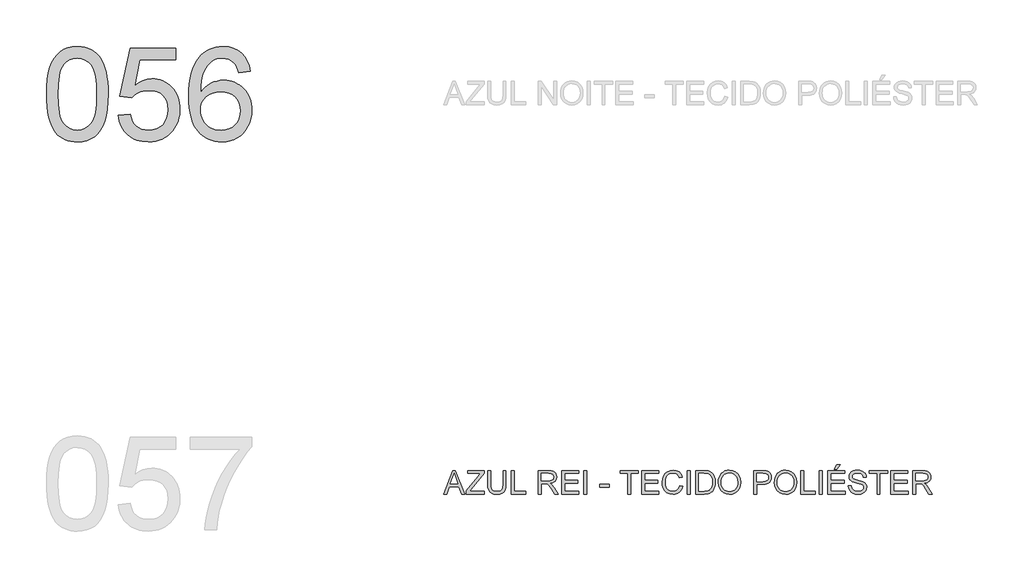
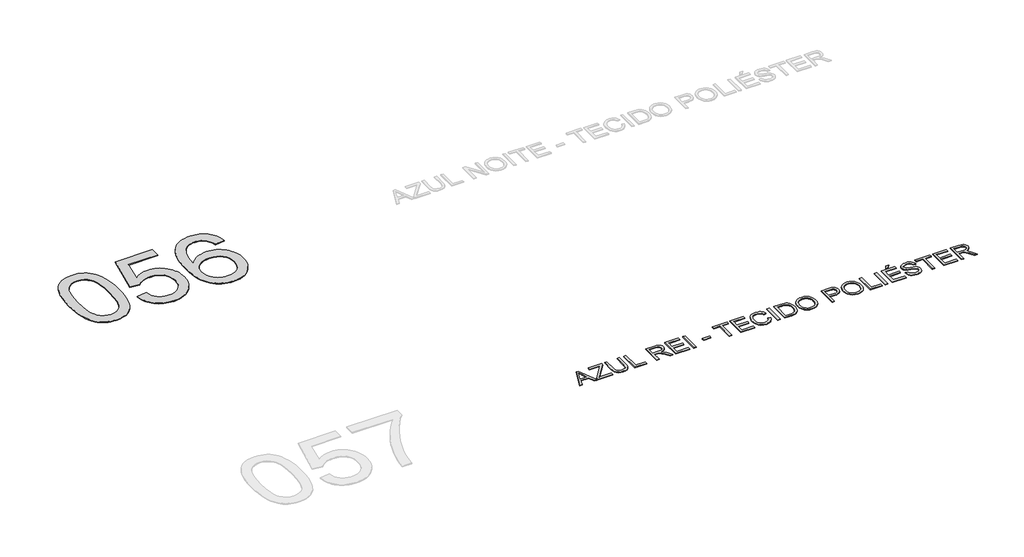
# One storey, part 19 of 35: 2 proxies.
"""IFC4 building model written with IfcOpenShell, lengths in millimetres."""

from ifc_helpers import new_model, si_unit, origin, origin_with_axes, place, context, project, spatial, polyline, outline, extrude, element, save

model = new_model("IFC4")

# Units and contexts
model_context = context("Model", 3, world=origin())
ifc_project = project(units=[si_unit("LENGTHUNIT", "METRE", prefix="MILLI")], contexts=[model_context])

# Site, building, storey
site = spatial("IfcSite", under=ifc_project)
building = spatial("IfcBuilding", under=site)
storey = spatial("IfcBuildingStorey", under=building, Name="Marelli - Linha YOU - Planta Baixa", Elevation=0.0)

# Proxies
placement = place(None, origin())
element("IfcBuildingElementProxy", 1, Name="1200mm Arial", ObjectType="1200mm Arial", at=placement, inside=storey, context=model_context, shape_type="SweptSolid", body=[
    extrude(outline(polyline([(-25134.0424838, -44895.792664), (-25131.2741718, -44794.4319773), (-25122.9692358, -44702.8385576), (-25109.1276757, -44621.0124048), (-25089.7494916, -44548.953519), (-25064.9174569, -44486.073289), (-25034.7143451, -44431.7831035), (-24999.1401562, -44386.0829627), (-24958.1948901, -44348.9728664), (-24911.7405912, -44320.2596767), (-24859.6393036, -44299.7502555), (-24801.8910274, -44287.4446027), (-24738.4957626, -44283.3427185), (-24690.8550442, -44285.7707396), (-24645.642347, -44293.0548031), (-24602.857671, -44305.194909), (-24562.5010161, -44322.1910572), (-24525.5472697, -44343.7581391), (-24492.971319, -44369.6110463), (-24464.7731641, -44399.7497788), (-24440.9528049, -44434.1743365), (-24420.314625, -44472.7467637), (-24401.6630078, -44515.3291046), (-24370.3194618, -44612.5235278), (-24358.3449029, -44669.6831928), (-24349.7916465, -44735.9479371), (-24344.6596927, -44811.3177609), (-24342.9490414, -44895.792664), (-24345.6897623, -44996.5095573), (-24353.9119248, -45087.6431245), (-24367.6155292, -45169.1933658), (-24386.8005752, -45241.1602811), (-24411.4394718, -45304.0681023), (-24441.5046279, -45358.4410612), (-24476.9960434, -45404.2791578), (-24517.9137183, -45441.5823921), (-24564.4231995, -45470.4887199), (-24616.690034, -45491.1360968), (-24674.7142217, -45503.524523), (-24738.4957626, -45507.6539984), (-24781.170074, -45505.8605737), (-24821.4899407, -45500.4802995), (-24859.4553626, -45491.5131759), (-24895.0663398, -45478.9592028), (-24928.3228721, -45462.8183803), (-24959.2249597, -45443.0907083), (-24987.7726025, -45419.7761868), (-25013.9658006, -45392.8748159), (-25042.1087732, -45350.2786794), (-25066.4993495, -45302.0999336), (-25087.1375294, -45248.3385785), (-25104.023313, -45188.9946142), (-25117.1567002, -45124.0680406), (-25126.5376911, -45053.5588577), (-25132.1662856, -44977.4670655), (-25134.0424838, -44895.792664)]), holes=[polyline([(-24983.3580186, -44895.4983584), (-24978.9434347, -45026.4919399), (-24965.6996828, -45132.5247279), (-24955.766869, -45176.1808245), (-24943.6267631, -45213.5967226), (-24929.2793653, -45244.7724225), (-24912.7246755, -45269.7079239), (-24875.3478648, -45307.884878), (-24833.8507758, -45335.1541309), (-24788.2334084, -45351.5156826), (-24738.4957626, -45356.9695332), (-24688.7581169, -45351.4972885), (-24643.1407495, -45335.0805545), (-24601.6436604, -45307.7193311), (-24564.2668497, -45269.4136183), (-24547.7121599, -45244.418336), (-24533.3647621, -45213.2104465), (-24521.2246563, -45175.7899498), (-24511.2918424, -45132.1568459), (-24498.0480906, -45026.2528166), (-24493.6335066, -44895.4983584), (-24497.9009378, -44767.9720648), (-24510.7032312, -44663.8062779), (-24520.3049513, -44620.4835744), (-24532.0403869, -44583.0009976), (-24545.9095381, -44551.3585475), (-24561.9124049, -44525.5562241), (-24598.6638162, -44485.5122689), (-24640.6391519, -44456.9094438), (-24687.8384119, -44439.7477487), (-24740.2615962, -44434.0271837), (-24789.7417245, -44439.067167), (-24834.5865397, -44454.187117), (-24874.7960418, -44479.3870337), (-24910.3702308, -44514.666917), (-24927.4767435, -44543.2145599), (-24942.3023879, -44577.2068562), (-24954.847164, -44616.6438061), (-24965.1110716, -44661.5254095), (-24978.7962819, -44767.6225769), (-24983.3580186, -44895.4983584)])]), origin_with_axes(), (0.0, 0.0, 1.0), 10.0),
    extrude(outline(polyline([(-24211.1001343, -45168.6139517), (-24060.4156691, -45149.7783935), (-24049.15848, -45198.2192552), (-24032.7509431, -45240.2405761), (-24011.1930581, -45275.8423562), (-23984.4848253, -45305.0245955), (-23952.6814268, -45327.7505057), (-23915.838045, -45343.9832988), (-23873.9546798, -45353.7229746), (-23827.0313314, -45356.9695332), (-23769.6417401, -45352.4537817), (-23719.0211776, -45338.9065272), (-23675.1696437, -45316.3277698), (-23638.0871386, -45284.7175093), (-23608.6013967, -45245.6392444), (-23587.5401525, -45200.6564734), (-23574.903406, -45149.7691965), (-23570.6911571, -45092.9774135), (-23574.6366915, -45039.3034304), (-23586.4732947, -44991.5891356), (-23606.2009667, -44949.8345291), (-23633.8197075, -44914.039611), (-23669.4214876, -44885.3264213), (-23713.0982775, -44864.817), (-23764.8500771, -44852.5113473), (-23824.6768866, -44848.4094631), (-23862.9642052, -44850.0465379), (-23897.775039, -44854.9577626), (-23929.109388, -44863.143137), (-23956.9672521, -44874.6026611), (-24004.2400884, -44904.6954083), (-24041.5801109, -44942.5872538), (-24192.2645762, -44923.7516957), (-24060.4156691, -44302.1782766), (-23476.5133664, -44302.1782766), (-23476.5133664, -44452.8627418), (-23938.5731523, -44452.8627418), (-24003.0260778, -44784.8394543), (-23949.8487354, -44746.7268796), (-23895.3838061, -44719.503612), (-23839.6312897, -44703.1696514), (-23782.5911863, -44697.7249978), (-23745.1522955, -44699.4126565), (-23709.2079254, -44704.4756324), (-23674.7580758, -44712.9139257), (-23641.8027468, -44724.7275363), (-23610.3419384, -44739.9164642), (-23580.3756506, -44758.4807093), (-23551.9038835, -44780.4202718), (-23524.9266369, -44805.7351516), (-23500.3360248, -44833.7033803), (-23479.024161, -44863.6029895), (-23460.9910454, -44895.4339791), (-23446.2366781, -44929.1963492), (-23434.7610592, -44964.8900998), (-23426.5641885, -45002.5152308), (-23421.646066, -45042.0717424), (-23420.0066919, -45083.5596344), (-23425.9111979, -45161.6241938), (-23433.2918304, -45198.6147284), (-23443.624716, -45234.2440996), (-23456.9098545, -45268.5123075), (-23473.1472461, -45301.4193519), (-23492.3368907, -45332.965233), (-23514.4787883, -45363.1499507), (-23544.479565, -45397.0180869), (-23577.0923038, -45426.3704716), (-23612.3170049, -45451.2071048), (-23650.1536681, -45471.5279865), (-23690.6022934, -45487.3331167), (-23733.662881, -45498.6224954), (-23779.3354307, -45505.3961227), (-23827.6199425, -45507.6539984), (-23905.3809993, -45501.8506599), (-23941.4403326, -45494.5964869), (-23975.6188692, -45484.4406445), (-24007.9166091, -45471.383133), (-24038.3335523, -45455.4239522), (-24066.8696989, -45436.5631021), (-24093.5250487, -45414.8005828), (-24117.8627419, -45390.6422321), (-24139.4459187, -45364.5938875), (-24158.2745791, -45336.6555493), (-24174.348723, -45306.8272173), (-24187.6683505, -45275.1088915), (-24198.2334615, -45241.500572), (-24211.1001343, -45168.6139517)])), origin_with_axes(), (0.0, 0.0, 1.0), 10.0),
    extrude(outline(polyline([(-22515.8999005, -44603.5472071), (-22666.5843658, -44622.3827652), (-22677.6576138, -44582.0812927), (-22690.8645775, -44547.7027202), (-22706.2052567, -44519.2470479), (-22723.6796514, -44496.7142757), (-22756.0716611, -44469.2886729), (-22792.0321261, -44449.6989567), (-22831.5610465, -44437.9451269), (-22874.6584222, -44434.0271837), (-22910.195823, -44436.3080521), (-22944.7031541, -44443.1506572), (-22978.1804157, -44454.554999), (-23010.6276077, -44470.5210776), (-23040.2329112, -44496.6315022), (-23067.2446467, -44528.1681863), (-23091.6628141, -44565.1311297), (-23113.4874135, -44607.5203326), (-23131.5596165, -44658.1316981), (-23144.7205949, -44719.7611293), (-23152.9703486, -44792.4086263), (-23156.3088778, -44876.0741891), (-23127.586491, -44838.2099347), (-23095.8658659, -44805.5512106), (-23061.1470026, -44778.0980167), (-23023.4299011, -44755.8503531), (-22983.7262368, -44738.6610669), (-22943.0476851, -44726.3830053), (-22901.3942462, -44719.0161683), (-22858.7659201, -44716.560556), (-22821.8673559, -44718.2390176), (-22786.3667434, -44723.2744024), (-22752.2640824, -44731.6667104), (-22719.5593731, -44743.4159416), (-22688.2526153, -44758.5220961), (-22658.3438091, -44776.9851737), (-22629.8329545, -44798.8051745), (-22602.7200514, -44823.9820986), (-22577.9569946, -44851.81697), (-22556.4956787, -44881.6108131), (-22538.3361037, -44913.3636278), (-22523.4782696, -44947.0754142), (-22511.9221765, -44982.7461721), (-22503.6678242, -45020.3759017), (-22498.7152128, -45059.9646029), (-22497.0643424, -45101.5122757), (-22500.1729453, -45156.4462547), (-22509.4987538, -45209.4120649), (-22525.0417681, -45260.4097065), (-22546.8019881, -45309.4391794), (-22574.0068617, -45354.6702707), (-22605.8838366, -45394.2727675), (-22642.4329128, -45428.2466698), (-22683.6540903, -45456.5919775), (-22728.6644525, -45478.9316116), (-22776.5810823, -45494.8884932), (-22827.40398, -45504.4626221), (-22881.1331454, -45507.6539984), (-22927.1344896, -45505.5386769), (-22970.9607315, -45499.1927125), (-23012.6118712, -45488.6161052), (-23052.0879085, -45473.8088549), (-23089.3888436, -45454.7709616), (-23124.5146763, -45431.5024254), (-23157.4654068, -45404.0032463), (-23188.2410349, -45372.2734242), (-23216.0736071, -45335.6875598), (-23240.1951697, -45293.6202536), (-23260.6057226, -45246.0715057), (-23277.305266, -45193.0413161), (-23290.2937997, -45134.5296848), (-23299.5713237, -45070.5366117), (-23305.1378382, -45001.062097), (-23306.993343, -44926.1061404), (-23304.9332038, -44842.1784618), (-23298.7527863, -44764.1828803), (-23288.4520904, -44692.1193959), (-23274.0311162, -44625.9880088), (-23255.4898637, -44565.7887188), (-23232.8283327, -44511.521526), (-23206.0465235, -44463.1864303), (-23175.1444359, -44420.7834319), (-23145.1298636, -44388.5707647), (-23112.6228908, -44360.6531198), (-23077.6235175, -44337.0304971), (-23040.1317437, -44317.7028968), (-23000.1475693, -44302.6703188), (-22957.6709945, -44291.9327631), (-22912.7020191, -44285.4902296), (-22865.2406432, -44283.3427185), (-22795.8397048, -44288.6586133), (-22733.0238541, -44304.6062978), (-22676.7930911, -44331.1857719), (-22627.1474159, -44368.3970358), (-22585.4295976, -44414.9892904), (-22552.9824057, -44469.7117372), (-22529.80584, -44532.5643761), (-22515.8999005, -44603.5472071)]), holes=[polyline([(-23156.3088778, -45099.157831), (-23154.1291769, -45132.9202011), (-23147.5900745, -45165.9284131), (-23136.6915704, -45198.182467), (-23121.4336646, -45229.6823629), (-23102.5613183, -45258.9473756), (-23080.8194923, -45284.4967801), (-23056.2081869, -45306.3305766), (-23028.7274018, -45324.4487648), (-22998.5518812, -45338.676601), (-22965.8563688, -45348.8393411), (-22930.6408649, -45354.9369852), (-22892.9053692, -45356.9695332), (-22840.5281701, -45352.7572843), (-22793.4668659, -45340.1205378), (-22751.7214565, -45319.0592936), (-22715.2919419, -45289.5735517), (-22685.7418207, -45252.8589286), (-22664.6345912, -45210.1110407), (-22651.9702535, -45161.3298882), (-22647.7488076, -45106.5154709), (-22651.9150712, -45053.8439662), (-22664.413862, -45007.0769676), (-22685.24518, -44966.214475), (-22714.4090251, -44931.2564884), (-22750.9489043, -44903.2514715), (-22793.9083243, -44883.247888), (-22843.2872851, -44871.2457379), (-22899.0857867, -44867.2450212), (-22950.76401, -44871.2457379), (-22998.3771372, -44883.247888), (-23041.9251684, -44903.2514715), (-23081.4081035, -44931.2564884), (-23114.1771923, -44965.7546225), (-23137.5836842, -45005.2375576), (-23151.6275794, -45049.7052938), (-23156.3088778, -45099.157831)])]), origin_with_axes(), (0.0, 0.0, 1.0), 10.0),
])
element("IfcBuildingElementProxy", 2, Name="300mm Arial", ObjectType="300mm Arial", at=placement, inside=storey, context=model_context, shape_type="SweptSolid", body=[
    extrude(outline(polyline([(-20035.3554191, -50030.5663201), (-19915.0580067, -49729.1973896), (-19882.9786967, -49729.1973896), (-19762.6812843, -50030.5663201), (-19802.4861162, -50030.5663201), (-19836.9934473, -49936.3885293), (-19961.1168325, -49936.3885293), (-19995.5505873, -50030.5663201), (-20035.3554191, -50030.5663201)]), holes=[polyline([(-19947.2844695, -49898.717413), (-19850.752234, -49898.717413), (-19877.9019252, -49824.6259792), (-19899.0183517, -49766.8685059), (-19917.7803335, -49818.1512561), (-19947.2844695, -49898.717413)])]), origin_with_axes(), (0.0, 0.0, 1.0), 10.0),
    extrude(outline(polyline([(-19745.9794417, -50030.5663201), (-19745.9794417, -49991.4972522), (-19591.8368858, -49802.7737887), (-19562.5534789, -49766.8685059), (-19727.1438836, -49766.8685059), (-19727.1438836, -49729.1973896), (-19515.2438544, -49729.1973896), (-19515.2438544, -49766.8685059), (-19683.9545373, -49973.397458), (-19699.8470395, -49992.8952038), (-19510.5349648, -49992.8952038), (-19510.5349648, -50030.5663201), (-19745.9794417, -50030.5663201)])), origin_with_axes(), (0.0, 0.0, 1.0), 10.0),
    extrude(outline(polyline([(-19270.3815984, -49729.1973896), (-19232.7104821, -49729.1973896), (-19232.7104821, -49903.0584205), (-19235.2672619, -49943.7737604), (-19242.9376015, -49975.1265034), (-19257.2666052, -49999.3147446), (-19279.7993774, -50018.5365788), (-19310.5911004, -50031.0905519), (-19349.6969565, -50035.2752096), (-19387.947487, -50031.6331779), (-19418.5276778, -50020.7070826), (-19441.4467261, -50002.8740029), (-19456.7138289, -49978.5110178), (-19465.2946765, -49945.8338995), (-19468.154959, -49903.0584205), (-19468.154959, -49729.1973896), (-19430.4838427, -49729.1973896), (-19430.4838427, -49901.7340454), (-19428.6260386, -49935.588386), (-19423.0526264, -49959.1604248), (-19412.9542656, -49975.4851883), (-19397.5216159, -49987.597703), (-19377.3984708, -49995.1024957), (-19353.2286237, -49997.6040933), (-19314.9137139, -49992.6560805), (-19300.5709146, -49986.4710644), (-19289.4378857, -49977.812042), (-19281.10076, -49965.6351479), (-19275.1456702, -49948.8965171), (-19270.3815984, -49901.7340454), (-19270.3815984, -49729.1973896)])), origin_with_axes(), (0.0, 0.0, 1.0), 10.0),
    extrude(outline(polyline([(-19166.7860285, -50030.5663201), (-19166.7860285, -49729.1973896), (-19129.1149122, -49729.1973896), (-19129.1149122, -49992.8952038), (-18978.430447, -49992.8952038), (-18978.430447, -50030.5663201), (-19166.7860285, -50030.5663201)])), origin_with_axes(), (0.0, 0.0, 1.0), 10.0),
    extrude(outline(polyline([(-18818.3282027, -50030.5663201), (-18818.3282027, -49729.1973896), (-18688.4658584, -49729.1973896), (-18653.5630541, -49731.2299376), (-18628.1699994, -49737.3275817), (-18609.6103527, -49748.5847708), (-18595.2077726, -49766.0959537), (-18585.9647375, -49787.8101885), (-18582.8837258, -49811.6765329), (-18587.9880885, -49841.3646099), (-18603.3011765, -49865.9759154), (-18614.9009557, -49876.0052983), (-18629.2828424, -49884.0205273), (-18666.3929387, -49894.0085235), (-18644.9822066, -49910.1217548), (-18614.448001, -49948.8965171), (-18564.1953204, -50030.5663201), (-18607.9732779, -50030.5663201), (-18647.1894985, -49968.0999573), (-18675.5164122, -49926.750021), (-18695.4188281, -49907.2154871), (-18713.3346813, -49900.0417882), (-18735.1868718, -49898.717413), (-18780.6570864, -49898.717413), (-18780.6570864, -50030.5663201), (-18818.3282027, -50030.5663201)]), holes=[polyline([(-18780.6570864, -49861.0462967), (-18696.3385331, -49861.0462967), (-18672.1227008, -49859.7127245), (-18653.3331279, -49855.7120078), (-18639.1880651, -49848.7774322), (-18628.9057634, -49838.6422832), (-18622.6425724, -49826.3826157), (-18620.5548421, -49813.0744845), (-18624.5371647, -49794.6987789), (-18636.4841325, -49779.8915286), (-18657.039539, -49770.1242616), (-18686.8471776, -49766.8685059), (-18780.6570864, -49766.8685059), (-18780.6570864, -49861.0462967)])]), origin_with_axes(), (0.0, 0.0, 1.0), 10.0),
    extrude(outline(polyline([(-18516.9592722, -50030.5663201), (-18516.9592722, -49729.1973896), (-18300.3503535, -49729.1973896), (-18300.3503535, -49766.8685059), (-18479.2881559, -49766.8685059), (-18479.2881559, -49856.3374072), (-18309.7681326, -49856.3374072), (-18309.7681326, -49894.0085235), (-18479.2881559, -49894.0085235), (-18479.2881559, -49992.8952038), (-18295.6414639, -49992.8952038), (-18295.6414639, -50030.5663201), (-18516.9592722, -50030.5663201)])), origin_with_axes(), (0.0, 0.0, 1.0), 10.0),
    extrude(outline(polyline([(-18234.4258999, -50030.5663201), (-18234.4258999, -49729.1973896), (-18196.7547836, -49729.1973896), (-18196.7547836, -50030.5663201), (-18234.4258999, -50030.5663201)])), origin_with_axes(), (0.0, 0.0, 1.0), 10.0),
    extrude(outline(polyline([(-18027.2347603, -49941.0974188), (-18027.2347603, -49903.4263025), (-17909.5125218, -49903.4263025), (-17909.5125218, -49941.0974188), (-18027.2347603, -49941.0974188)])), origin_with_axes(), (0.0, 0.0, 1.0), 10.0),
    extrude(outline(polyline([(-17669.3591554, -50030.5663201), (-17669.3591554, -49766.8685059), (-17768.2458357, -49766.8685059), (-17768.2458357, -49729.1973896), (-17532.8013587, -49729.1973896), (-17532.8013587, -49766.8685059), (-17631.6880391, -49766.8685059), (-17631.6880391, -50030.5663201), (-17669.3591554, -50030.5663201)])), origin_with_axes(), (0.0, 0.0, 1.0), 10.0),
    extrude(outline(polyline([(-17490.4213529, -50030.5663201), (-17490.4213529, -49729.1973896), (-17273.8124341, -49729.1973896), (-17273.8124341, -49766.8685059), (-17452.7502366, -49766.8685059), (-17452.7502366, -49856.3374072), (-17283.2302132, -49856.3374072), (-17283.2302132, -49894.0085235), (-17452.7502366, -49894.0085235), (-17452.7502366, -49992.8952038), (-17269.1035446, -49992.8952038), (-17269.1035446, -50030.5663201), (-17490.4213529, -50030.5663201)])), origin_with_axes(), (0.0, 0.0, 1.0), 10.0),
    extrude(outline(polyline([(-17000.6968409, -49923.4390831), (-16963.0257246, -49933.1511677), (-16970.4799335, -49956.5783531), (-16980.4081489, -49977.0486868), (-16992.8103707, -49994.5621691), (-17007.6865988, -50009.1187997), (-17024.7011411, -50020.5622291), (-17043.5183052, -50028.7361071), (-17064.138091, -50033.640434), (-17086.5604986, -50035.2752096), (-17130.2556826, -50030.3271968), (-17164.9561518, -50015.4831583), (-17191.55402, -49991.2581289), (-17210.9414012, -49958.1671434), (-17222.7780044, -49919.2636224), (-17226.7235388, -49877.6009865), (-17222.2629696, -49833.6574821), (-17208.881262, -49795.7104543), (-17187.2773918, -49764.9647166), (-17158.1503349, -49742.6250824), (-17123.6062155, -49729.0226457), (-17085.7511582, -49724.4885001), (-17044.4472072, -49730.3562179), (-17026.478471, -49737.6908652), (-17010.298561, -49747.9593714), (-16996.1741916, -49760.8904235), (-16984.3720774, -49776.2127086), (-16967.7346142, -49814.0309777), (-17005.4057305, -49823.0072984), (-17018.4655413, -49795.5357104), (-17036.3078181, -49776.6909552), (-17059.15329, -49765.7924511), (-17087.2226862, -49762.1596164), (-17119.5779077, -49766.1879242), (-17146.1573818, -49778.2728478), (-17166.3265122, -49797.1451941), (-17179.4507024, -49821.5357704), (-17186.6519924, -49849.1085259), (-17189.0524225, -49877.5274101), (-17186.210534, -49912.3290468), (-17177.6848688, -49942.421794), (-17163.15353, -49966.6560205), (-17142.2946209, -49983.8820949), (-17117.2878422, -49994.1735937), (-17090.312895, -49997.6040933), (-17058.8681814, -49992.931992), (-17032.6657863, -49978.9156879), (-17012.882932, -49955.702334), (-17000.6968409, -49923.4390831)])), origin_with_axes(), (0.0, 0.0, 1.0), 10.0),
    extrude(outline(polyline([(-16906.5190502, -50030.5663201), (-16906.5190502, -49729.1973896), (-16868.8479339, -49729.1973896), (-16868.8479339, -50030.5663201), (-16906.5190502, -50030.5663201)])), origin_with_axes(), (0.0, 0.0, 1.0), 10.0),
    extrude(outline(polyline([(-16793.5057012, -50030.5663201), (-16793.5057012, -49729.1973896), (-16689.5422494, -49729.1973896), (-16635.7579017, -49733.5383972), (-16611.7352074, -49741.9077126), (-16591.4649095, -49755.0962821), (-16570.6243945, -49778.0521186), (-16555.780356, -49806.5997614), (-16546.8960058, -49840.1873876), (-16543.9345557, -49878.2631741), (-16545.9395126, -49910.6091985), (-16551.9543832, -49939.0740679), (-16561.1146449, -49963.3082943), (-16572.5557749, -49982.9623899), (-16585.7259504, -49998.477813), (-16600.0733482, -50010.2960221), (-16616.5452645, -50019.0608107), (-16636.0889955, -50025.4159721), (-16684.5390543, -50030.5663201), (-16793.5057012, -50030.5663201)]), holes=[polyline([(-16755.8345849, -49992.8952038), (-16689.1743674, -49992.8952038), (-16661.6016119, -49991.5340404), (-16640.6875204, -49987.4505502), (-16624.9053829, -49980.8838566), (-16612.7284888, -49972.0730828), (-16599.6410868, -49955.7667134), (-16589.8094405, -49934.6594839), (-16583.6566141, -49908.6594239), (-16581.605672, -49877.6745629), (-16585.6247828, -49836.6189322), (-16597.6821152, -49806.3054558), (-16615.4968008, -49785.4833349), (-16636.7879713, -49772.9017706), (-16658.4562208, -49768.3768221), (-16690.204437, -49766.8685059), (-16755.8345849, -49766.8685059), (-16755.8345849, -49992.8952038)])]), origin_with_axes(), (0.0, 0.0, 1.0), 10.0),
    extrude(outline(polyline([(-16506.2634394, -49883.8549804), (-16503.7526448, -49848.5061192), (-16496.2202609, -49817.213157), (-16483.6662879, -49789.9760937), (-16466.0907255, -49766.7949295), (-16444.5466362, -49748.2858666), (-16420.087082, -49735.0651074), (-16392.7120631, -49727.1326519), (-16362.4215793, -49724.4885001), (-16322.8926589, -49729.454907), (-16287.4472287, -49744.3541278), (-16258.0166691, -49768.1376988), (-16236.5323605, -49799.7571563), (-16223.3989733, -49837.68579), (-16219.0211776, -49880.3968896), (-16223.6288996, -49923.6782064), (-16237.4520655, -49962.140269), (-16259.7273203, -49993.8149087), (-16289.6913088, -50016.733957), (-16324.8332364, -50030.6398965), (-16362.6423085, -50035.2752096), (-16402.7782342, -50030.1524528), (-16438.4259995, -50014.7841825), (-16467.7829827, -49990.5591531), (-16489.046562, -49958.8661192), (-16501.9592201, -49922.3998164), (-16506.2634394, -49883.8549804)]), holes=[polyline([(-16468.5923231, -49884.2228624), (-16466.7092271, -49909.1974513), (-16461.0599393, -49931.3669401), (-16451.6444594, -49950.7313286), (-16438.4627877, -49967.2906169), (-16422.4392275, -49980.5527628), (-16404.4980825, -49990.0257242), (-16384.6393525, -49995.709501), (-16362.8630377, -49997.6040933), (-16340.7142423, -49995.6911069), (-16320.6209876, -49989.9521478), (-16302.5832735, -49980.3872159), (-16286.6011001, -49966.9963113), (-16273.5159974, -49950.0875351), (-16264.1694954, -49929.9689885), (-16258.5615943, -49906.6406715), (-16256.6922939, -49880.102584), (-16259.8928672, -49846.7540812), (-16269.4945873, -49817.9305269), (-16285.2491338, -49794.358488), (-16306.9081862, -49776.7645316), (-16333.0370049, -49765.8108452), (-16362.2008501, -49762.1596164), (-16383.2207076, -49763.9185522), (-16402.7230519, -49769.1953595), (-16420.7078829, -49777.9900385), (-16437.1752007, -49790.302589), (-16450.9201918, -49806.7262208), (-16460.7380425, -49827.8541437), (-16466.628753, -49853.6863575), (-16468.5923231, -49884.2228624)])]), origin_with_axes(), (0.0, 0.0, 1.0), 10.0),
    extrude(outline(polyline([(-16049.5011542, -50030.5663201), (-16049.5011542, -49729.1973896), (-15937.8121805, -49729.1973896), (-15892.7834243, -49732.0668692), (-15872.7062644, -49737.4287493), (-15856.1791657, -49746.1567496), (-15842.8710346, -49758.6463433), (-15832.450777, -49775.2930036), (-15825.7185365, -49794.9287051), (-15823.4744564, -49816.3854225), (-15824.9896703, -49834.8852883), (-15829.5353122, -49851.9044291), (-15837.1113821, -49867.4428449), (-15847.7178798, -49881.5005356), (-15862.2791091, -49893.1531978), (-15881.7193732, -49901.476528), (-15906.0386724, -49906.470526), (-15935.2370065, -49908.1351921), (-16011.8300379, -49908.1351921), (-16011.8300379, -50030.5663201), (-16049.5011542, -50030.5663201)]), holes=[polyline([(-16011.8300379, -49870.4640758), (-15933.0297145, -49870.4640758), (-15899.6260294, -49867.005985), (-15877.5531097, -49856.6317127), (-15865.2474569, -49839.9850525), (-15861.1455727, -49817.7097977), (-15863.5643968, -49800.7872259), (-15870.8208691, -49786.5134045), (-15882.0136788, -49775.7712502), (-15896.241515, -49769.4436799), (-15933.9126313, -49766.8685059), (-16011.8300379, -49766.8685059), (-16011.8300379, -49870.4640758)])]), origin_with_axes(), (0.0, 0.0, 1.0), 10.0),
    extrude(outline(polyline([(-15785.8033401, -49883.8549804), (-15783.2925454, -49848.5061192), (-15775.7601616, -49817.213157), (-15763.2061885, -49789.9760937), (-15745.6306262, -49766.7949295), (-15724.0865368, -49748.2858666), (-15699.6269827, -49735.0651074), (-15672.2519637, -49727.1326519), (-15641.9614799, -49724.4885001), (-15602.4325596, -49729.454907), (-15566.9871293, -49744.3541278), (-15537.5565697, -49768.1376988), (-15516.0722612, -49799.7571563), (-15502.938874, -49837.68579), (-15498.5610782, -49880.3968896), (-15503.1688002, -49923.6782064), (-15516.9919662, -49962.140269), (-15539.267221, -49993.8149087), (-15569.2312095, -50016.733957), (-15604.3731371, -50030.6398965), (-15642.1822091, -50035.2752096), (-15682.3181348, -50030.1524528), (-15717.9659001, -50014.7841825), (-15747.3228834, -49990.5591531), (-15768.5864627, -49958.8661192), (-15781.4991207, -49922.3998164), (-15785.8033401, -49883.8549804)]), holes=[polyline([(-15748.1322237, -49884.2228624), (-15746.2491278, -49909.1974513), (-15740.5998399, -49931.3669401), (-15731.1843601, -49950.7313286), (-15718.0026883, -49967.2906169), (-15701.9791282, -49980.5527628), (-15684.0379831, -49990.0257242), (-15664.1792532, -49995.709501), (-15642.4029383, -49997.6040933), (-15620.254143, -49995.6911069), (-15600.1608882, -49989.9521478), (-15582.1231742, -49980.3872159), (-15566.1410007, -49966.9963113), (-15553.055898, -49950.0875351), (-15543.7093961, -49929.9689885), (-15538.1014949, -49906.6406715), (-15536.2321945, -49880.102584), (-15539.4327679, -49846.7540812), (-15549.034488, -49817.9305269), (-15564.7890344, -49794.358488), (-15586.4480869, -49776.7645316), (-15612.5769056, -49765.8108452), (-15641.7407507, -49762.1596164), (-15662.7606082, -49763.9185522), (-15682.2629525, -49769.1953595), (-15700.2477835, -49777.9900385), (-15716.7151014, -49790.302589), (-15730.4600924, -49806.7262208), (-15740.2779431, -49827.8541437), (-15746.1686536, -49853.6863575), (-15748.1322237, -49884.2228624)])]), origin_with_axes(), (0.0, 0.0, 1.0), 10.0),
    extrude(outline(polyline([(-15446.7632933, -50030.5663201), (-15446.7632933, -49729.1973896), (-15409.092177, -49729.1973896), (-15409.092177, -49992.8952038), (-15258.4077118, -49992.8952038), (-15258.4077118, -50030.5663201), (-15446.7632933, -50030.5663201)])), origin_with_axes(), (0.0, 0.0, 1.0), 10.0),
    extrude(outline(polyline([(-15211.3188164, -50030.5663201), (-15211.3188164, -49729.1973896), (-15173.6477001, -49729.1973896), (-15173.6477001, -50030.5663201), (-15211.3188164, -50030.5663201)])), origin_with_axes(), (0.0, 0.0, 1.0), 10.0),
    extrude(outline(polyline([(-15098.3054675, -50030.5663201), (-15098.3054675, -49729.1973896), (-14881.6965487, -49729.1973896), (-14881.6965487, -49766.8685059), (-15060.6343512, -49766.8685059), (-15060.6343512, -49856.3374072), (-14891.1143278, -49856.3374072), (-14891.1143278, -49894.0085235), (-15060.6343512, -49894.0085235), (-15060.6343512, -49992.8952038), (-14876.9876592, -49992.8952038), (-14876.9876592, -50030.5663201), (-15098.3054675, -50030.5663201)])), origin_with_axes(), (0.0, 0.0, 1.0), 10.0),
    extrude(outline(polyline([(-15013.5454558, -49710.3618315), (-14985.2921185, -49653.855157), (-14938.2032232, -49653.855157), (-14985.2921185, -49710.3618315), (-15013.5454558, -49710.3618315)])), origin_with_axes(), (0.0, 0.0, 1.0), 10.0),
    extrude(outline(polyline([(-14834.6076533, -49926.9707502), (-14796.936537, -49926.9707502), (-14792.6139236, -49947.8756446), (-14784.7964312, -49964.6786547), (-14772.601143, -49978.0143771), (-14755.1451424, -49988.517408), (-14733.8079866, -49995.332422), (-14709.9692334, -49997.6040933), (-14688.9815655, -49995.884245), (-14670.6058599, -49990.7247), (-14655.7158361, -49982.5577197), (-14645.185214, -49971.8155654), (-14638.922023, -49959.4823215), (-14636.8342927, -49946.5420724), (-14638.3977912, -49933.932917), (-14643.0882866, -49923.0344129), (-14652.6164303, -49913.7361954), (-14668.6928735, -49905.9279001), (-14723.544079, -49891.5437141), (-14759.5505293, -49882.0247675), (-14782.5891392, -49872.9656733), (-14801.3419239, -49860.2921386), (-14814.631661, -49844.9330653), (-14822.5503209, -49827.2195472), (-14825.1898742, -49807.4826782), (-14821.9249215, -49785.4189555), (-14812.1300634, -49764.845155), (-14796.0628173, -49747.4075484), (-14773.9807005, -49734.7524077), (-14747.4748028, -49727.054477), (-14718.1362137, -49724.4885001), (-14686.3512093, -49727.1740386), (-14658.5393304, -49735.2306543), (-14635.6938585, -49748.4928003), (-14618.808075, -49766.7949295), (-14608.121103, -49788.9966079), (-14603.8720659, -49813.9574013), (-14641.5431823, -49813.9574013), (-14648.4593638, -49791.4798114), (-14662.880338, -49775.2562154), (-14685.4131102, -49765.4337661), (-14716.6646857, -49762.1596164), (-14748.6520252, -49765.3969779), (-14770.5961862, -49775.1090626), (-14783.288115, -49789.4012781), (-14787.5187579, -49806.3790322), (-14784.5205197, -49820.8551887), (-14775.5258049, -49832.4986539), (-14754.2622256, -49842.9097143), (-14714.0159353, -49853.541504), (-14672.482058, -49863.6398648), (-14647.3557178, -49872.4506385), (-14625.8806063, -49886.1174547), (-14610.8986121, -49902.9848441), (-14602.0970353, -49922.868866), (-14599.1631764, -49945.5855792), (-14602.5384937, -49968.8081301), (-14612.6644456, -49990.6511236), (-14629.1271649, -50009.4498935), (-14651.5127843, -50023.539774), (-14678.4325493, -50032.3413507), (-14708.4977054, -50035.2752096), (-14745.4054665, -50032.1114244), (-14775.7833223, -50022.620069), (-14799.9807605, -50006.764355), (-14818.3472691, -49984.5074943), (-14830.1378871, -49957.3945912), (-14834.6076533, -49926.9707502)])), origin_with_axes(), (0.0, 0.0, 1.0), 10.0),
    extrude(outline(polyline([(-14467.3142693, -50030.5663201), (-14467.3142693, -49766.8685059), (-14566.2009496, -49766.8685059), (-14566.2009496, -49729.1973896), (-14330.7564727, -49729.1973896), (-14330.7564727, -49766.8685059), (-14429.643153, -49766.8685059), (-14429.643153, -50030.5663201), (-14467.3142693, -50030.5663201)])), origin_with_axes(), (0.0, 0.0, 1.0), 10.0),
    extrude(outline(polyline([(-14288.3764669, -50030.5663201), (-14288.3764669, -49729.1973896), (-14071.7675481, -49729.1973896), (-14071.7675481, -49766.8685059), (-14250.7053506, -49766.8685059), (-14250.7053506, -49856.3374072), (-14081.1853272, -49856.3374072), (-14081.1853272, -49894.0085235), (-14250.7053506, -49894.0085235), (-14250.7053506, -49992.8952038), (-14067.0586586, -49992.8952038), (-14067.0586586, -50030.5663201), (-14288.3764669, -50030.5663201)])), origin_with_axes(), (0.0, 0.0, 1.0), 10.0),
    extrude(outline(polyline([(-14010.5519841, -50030.5663201), (-14010.5519841, -49729.1973896), (-13880.6896398, -49729.1973896), (-13845.7868355, -49731.2299376), (-13820.3937808, -49737.3275817), (-13801.8341342, -49748.5847708), (-13787.4315541, -49766.0959537), (-13778.1885189, -49787.8101885), (-13775.1075072, -49811.6765329), (-13780.2118699, -49841.3646099), (-13795.5249579, -49865.9759154), (-13807.1247371, -49876.0052983), (-13821.5066239, -49884.0205273), (-13858.6167201, -49894.0085235), (-13837.205988, -49910.1217548), (-13806.6717824, -49948.8965171), (-13756.4191019, -50030.5663201), (-13800.1970593, -50030.5663201), (-13839.41328, -49968.0999573), (-13867.7401936, -49926.750021), (-13887.6426095, -49907.2154871), (-13905.5584627, -49900.0417882), (-13927.4106532, -49898.717413), (-13972.8808678, -49898.717413), (-13972.8808678, -50030.5663201), (-14010.5519841, -50030.5663201)]), holes=[polyline([(-13972.8808678, -49861.0462967), (-13888.5623145, -49861.0462967), (-13864.3464822, -49859.7127245), (-13845.5569093, -49855.7120078), (-13831.4118466, -49848.7774322), (-13821.1295448, -49838.6422832), (-13814.8663538, -49826.3826157), (-13812.7786235, -49813.0744845), (-13816.7609461, -49794.6987789), (-13828.7079139, -49779.8915286), (-13849.2633204, -49770.1242616), (-13879.0709591, -49766.8685059), (-13972.8808678, -49766.8685059), (-13972.8808678, -49861.0462967)])]), origin_with_axes(), (0.0, 0.0, 1.0), 10.0),
])

save(model, "model.ifc")
